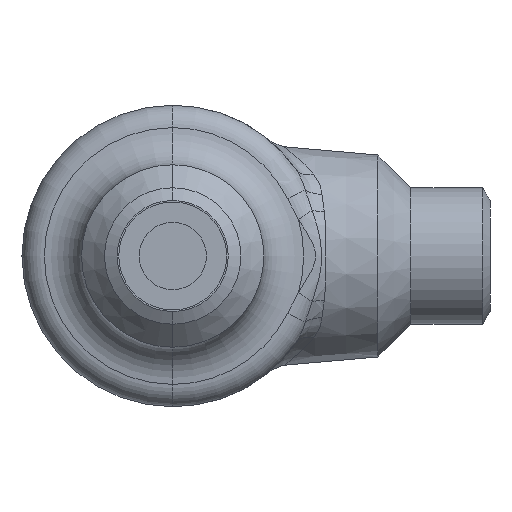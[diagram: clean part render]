
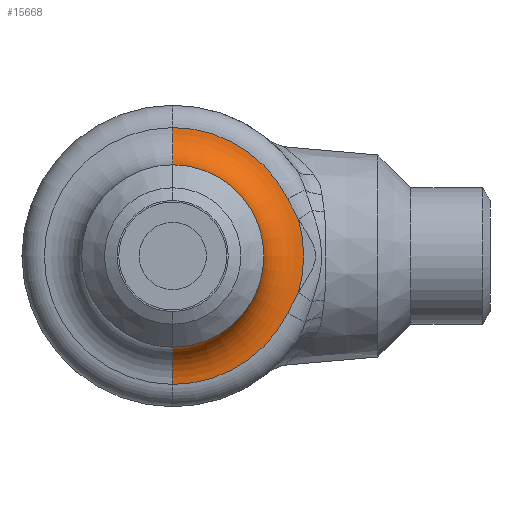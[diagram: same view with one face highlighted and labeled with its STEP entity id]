
A CAD part, front view. The second image highlights one B-rep face of the part: STEP entity #15668.
In plain terms, the highlighted toroidal (fillet/blend) face has major radius 16.5 mm and minor radius 5 mm.
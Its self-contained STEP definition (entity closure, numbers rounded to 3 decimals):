
#506 = ORIENTED_EDGE ( 'NONE', *, *, #10476, .T. ) ;
#761 = VERTEX_POINT ( 'NONE', #17827 ) ;
#17362 = EDGE_CURVE ( 'NONE', #3115, #10256, #2989, .T. ) ;
#1303 = EDGE_LOOP ( 'NONE', ( #10457, #6847, #3823, #15944, #5507, #506, #18775, #14519 ) ) ;
#17827 = CARTESIAN_POINT ( 'NONE',  ( 0., -52.01, -16.187 ) ) ;
#18026 = CIRCLE ( 'NONE', #18027, 5. ) ;
#18027 = AXIS2_PLACEMENT_3D ( 'NONE', #18028, #18029, #18030 ) ;
#18028 = CARTESIAN_POINT ( 'NONE',  ( 0., -57., -16.5 ) ) ;
#18029 = DIRECTION ( 'NONE',  ( 1., 0., 0. ) ) ;
#18030 = DIRECTION ( 'NONE',  ( 0., 0., -1. ) ) ;
#18088 = CARTESIAN_POINT ( 'NONE',  ( 14.484, -52.01, 7.229 ) ) ;
#1777 = CARTESIAN_POINT ( 'NONE',  ( 0., -52.01, 16.187 ) ) ;
#18301 = CIRCLE ( 'NONE', #18302, 16.188 ) ;
#18302 = AXIS2_PLACEMENT_3D ( 'NONE', #18321, #18322, #18323 ) ;
#18321 = CARTESIAN_POINT ( 'NONE',  ( 0., -52.01, 0. ) ) ;
#18322 = DIRECTION ( 'NONE',  ( 0., -1., 0. ) ) ;
#18323 = DIRECTION ( 'NONE',  ( 0., 0., -1. ) ) ;
#1988 = B_SPLINE_CURVE_WITH_KNOTS ( 'NONE', 3,
 ( #1989, #1990, #1991, #1992 ),
 .UNSPECIFIED., .F., .F.,
 ( 4, 4 ),
 ( 0., 0.003 ),
 .UNSPECIFIED. ) ;
#1989 = CARTESIAN_POINT ( 'NONE',  ( 14.484, -52.01, -7.229 ) ) ;
#1990 = CARTESIAN_POINT ( 'NONE',  ( 14.925, -52.01, -6.344 ) ) ;
#1991 = CARTESIAN_POINT ( 'NONE',  ( 15.397, -52., -5.474 ) ) ;
#1992 = CARTESIAN_POINT ( 'NONE',  ( 15.848, -52., -4.594 ) ) ;
#2188 = EDGE_CURVE ( 'NONE', #5649, #4802, #1988, .T. ) ;
#2271 = CARTESIAN_POINT ( 'NONE',  ( 0., -57., -11.5 ) ) ;
#2335 = CARTESIAN_POINT ( 'NONE',  ( 0., -57., 11.5 ) ) ;
#18775 = ORIENTED_EDGE ( 'NONE', *, *, #15614, .T. ) ;
#18992 = EDGE_CURVE ( 'NONE', #3115, #4802, #12878, .T. ) ;
#2902 = CARTESIAN_POINT ( 'NONE',  ( 15.848, -52., 4.594 ) ) ;
#2989 = B_SPLINE_CURVE_WITH_KNOTS ( 'NONE', 3,
 ( #2990, #2991, #2992, #2993 ),
 .UNSPECIFIED., .F., .F.,
 ( 4, 4 ),
 ( 0.013, 0.016 ),
 .UNSPECIFIED. ) ;
#2990 = CARTESIAN_POINT ( 'NONE',  ( 15.848, -52., 4.594 ) ) ;
#2991 = CARTESIAN_POINT ( 'NONE',  ( 15.397, -52., 5.474 ) ) ;
#2992 = CARTESIAN_POINT ( 'NONE',  ( 14.925, -52.01, 6.344 ) ) ;
#2993 = CARTESIAN_POINT ( 'NONE',  ( 14.484, -52.01, 7.229 ) ) ;
#3115 = VERTEX_POINT ( 'NONE', #2902 ) ;
#3823 = ORIENTED_EDGE ( 'NONE', *, *, #2188, .T. ) ;
#4802 = VERTEX_POINT ( 'NONE', #14024 ) ;
#5507 = ORIENTED_EDGE ( 'NONE', *, *, #17362, .T. ) ;
#5649 = VERTEX_POINT ( 'NONE', #15218 ) ;
#5793 = EDGE_CURVE ( 'NONE', #761, #5649, #15285, .T. ) ;
#6847 = ORIENTED_EDGE ( 'NONE', *, *, #5793, .T. ) ;
#10201 = EDGE_CURVE ( 'NONE', #761, #11685, #18026, .T. ) ;
#10256 = VERTEX_POINT ( 'NONE', #18088 ) ;
#10457 = ORIENTED_EDGE ( 'NONE', *, *, #10201, .F. ) ;
#10476 = EDGE_CURVE ( 'NONE', #10256, #11336, #18301, .T. ) ;
#11336 = VERTEX_POINT ( 'NONE', #1777 ) ;
#11685 = VERTEX_POINT ( 'NONE', #2271 ) ;
#11807 = VERTEX_POINT ( 'NONE', #2335 ) ;
#12878 = CIRCLE ( 'NONE', #12879, 16.5 ) ;
#12879 = AXIS2_PLACEMENT_3D ( 'NONE', #12880, #12883, #12884 ) ;
#12880 = CARTESIAN_POINT ( 'NONE',  ( 0., -52., 0. ) ) ;
#12883 = DIRECTION ( 'NONE',  ( 0., 1., 0. ) ) ;
#12884 = DIRECTION ( 'NONE',  ( 0., 0., 1. ) ) ;
#14024 = CARTESIAN_POINT ( 'NONE',  ( 15.848, -52., -4.594 ) ) ;
#14519 = ORIENTED_EDGE ( 'NONE', *, *, #15198, .F. ) ;
#15198 = EDGE_CURVE ( 'NONE', #11685, #11807, #15646, .T. ) ;
#15218 = CARTESIAN_POINT ( 'NONE',  ( 14.484, -52.01, -7.229 ) ) ;
#15285 = CIRCLE ( 'NONE', #15286, 16.188 ) ;
#15286 = AXIS2_PLACEMENT_3D ( 'NONE', #15289, #15290, #15291 ) ;
#15289 = CARTESIAN_POINT ( 'NONE',  ( 0., -52.01, 0. ) ) ;
#15290 = DIRECTION ( 'NONE',  ( 0., -1., 0. ) ) ;
#15291 = DIRECTION ( 'NONE',  ( 0., 0., -1. ) ) ;
#15614 = EDGE_CURVE ( 'NONE', #11336, #11807, #16016, .T. ) ;
#15646 = CIRCLE ( 'NONE', #15647, 11.5 ) ;
#15647 = AXIS2_PLACEMENT_3D ( 'NONE', #15648, #15651, #15652 ) ;
#15648 = CARTESIAN_POINT ( 'NONE',  ( 0., -57., 0. ) ) ;
#15651 = DIRECTION ( 'NONE',  ( 0., -1., 0. ) ) ;
#15652 = DIRECTION ( 'NONE',  ( 0., 0., 1. ) ) ;
#15668 = ADVANCED_FACE ( 'NONE', ( #16044 ), #16045, .F. ) ;
#15944 = ORIENTED_EDGE ( 'NONE', *, *, #18992, .F. ) ;
#16016 = CIRCLE ( 'NONE', #16017, 5. ) ;
#16017 = AXIS2_PLACEMENT_3D ( 'NONE', #16018, #16019, #16020 ) ;
#16018 = CARTESIAN_POINT ( 'NONE',  ( 0., -57., 16.5 ) ) ;
#16019 = DIRECTION ( 'NONE',  ( -1., 0., 0. ) ) ;
#16020 = DIRECTION ( 'NONE',  ( 0., 0., 1. ) ) ;
#16044 = FACE_OUTER_BOUND ( 'NONE', #1303, .T. ) ;
#16045 = TOROIDAL_SURFACE ( 'NONE', #16046, 16.5, 5. ) ;
#16046 = AXIS2_PLACEMENT_3D ( 'NONE', #16047, #16048, #16049 ) ;
#16047 = CARTESIAN_POINT ( 'NONE',  ( 0., -57., 0. ) ) ;
#16048 = DIRECTION ( 'NONE',  ( 0., 1., 0. ) ) ;
#16049 = DIRECTION ( 'NONE',  ( 0., 0., 1. ) ) ;
